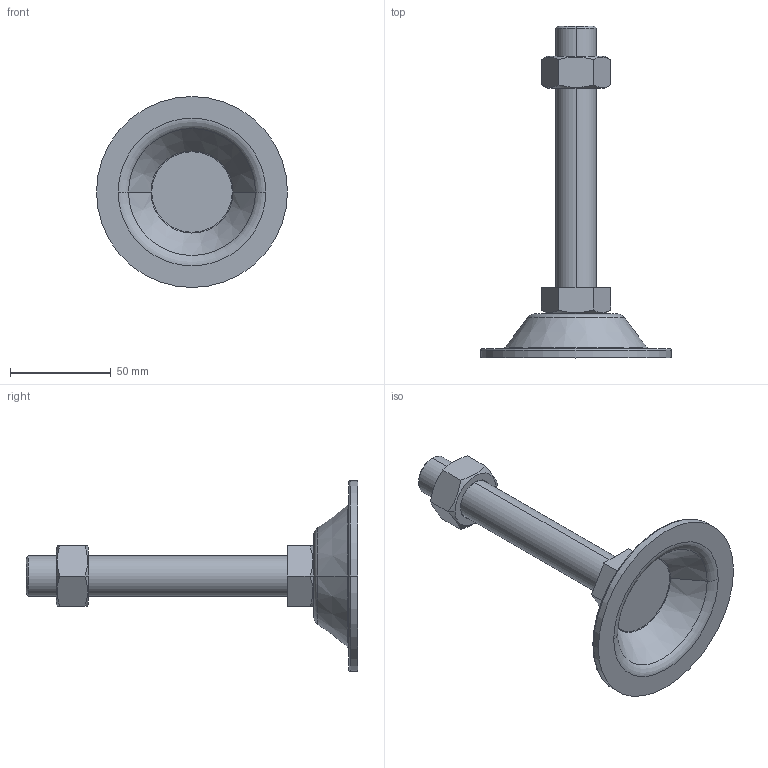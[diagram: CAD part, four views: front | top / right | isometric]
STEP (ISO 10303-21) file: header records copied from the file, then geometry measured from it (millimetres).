
FILE_DESCRIPTION (( 'STEP AP214' ), '1' );
FILE_NAME ('BL95-M20-130.step', '2021-01-06T05:41:23', ( '' ), ( '' ), 'SwSTEP 2.0', 'SolidWorks 2019', '' );
FILE_SCHEMA (( 'AUTOMOTIVE_DESIGN' ));
Length unit declared in the file: millimetre
Products named in the file (1): BL95-M20-130
Bounding box: 95 x 165 x 95 mm (x, y, z)
Volume: 96470.4 mm3; surface area: 32668.8 mm2
Topology: 3 solids, 3 shells, 53 faces, 110 edges, 66 vertices
Faces by surface type: plane 21, cone 16, torus 10, cylinder 6
Entity records: 1630 total; most frequent: CARTESIAN_POINT 440, DIRECTION 252, ORIENTED_EDGE 220, EDGE_CURVE 110, AXIS2_PLACEMENT_3D 106, VERTEX_POINT 66, EDGE_LOOP 58, ADVANCED_FACE 53
